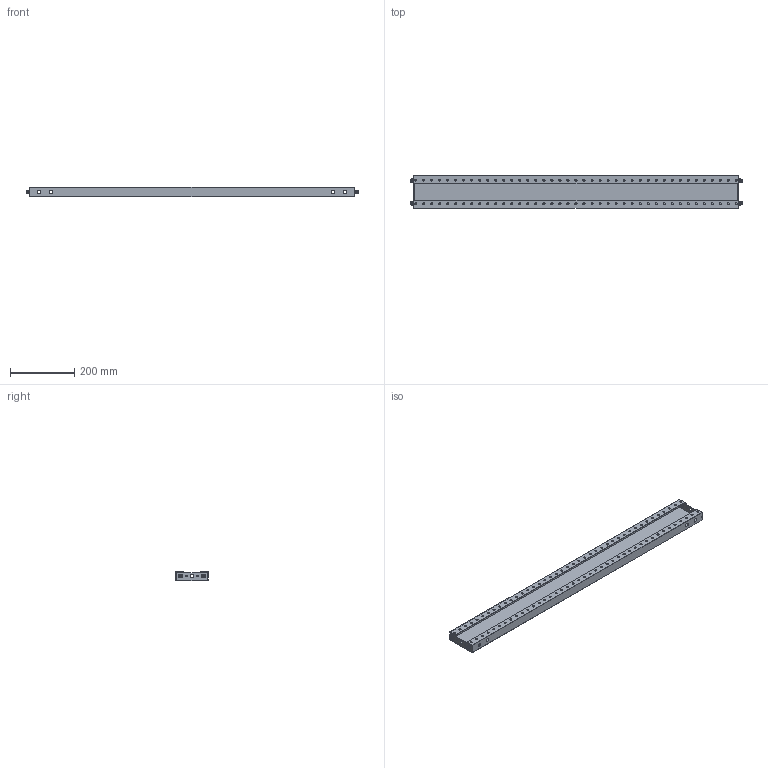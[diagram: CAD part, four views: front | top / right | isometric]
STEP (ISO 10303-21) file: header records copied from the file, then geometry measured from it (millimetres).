
FILE_DESCRIPTION(('Open CASCADE Model'),'2;1');
FILE_NAME('Open CASCADE Shape Model','2025-02-07T17:53:37',('Author'),( 'Open CASCADE'),'Open CASCADE STEP processor 7.8','Open CASCADE 7.8' ,'Unknown');
FILE_SCHEMA(('AUTOMOTIVE_DESIGN { 1 0 10303 214 1 1 1 1 }'));
Length unit declared in the file: millimetre
Products named in the file (5): Compound1; Solid1; Solid2; Solid3; Solid4
Assembly tree (13 placements, depth 2):
  Compound1
    Solid1
    Solid2  x4
    Solid3  x4
    Solid4  x4
Bounding box: 1036.2 x 100 x 30 mm (x, y, z)
Volume: 310829.9 mm3; surface area: 421234.3 mm2
Topology: 13 solids, 13 shells, 768 faces, 2154 edges, 1400 vertices
Faces by surface type: plane 378, cylinder 326, cone 32, bspline 16, torus 16
Full cylindrical faces by diameter (mm): 5.5 x4, 6.5 x82
Entity records: 25193 total; most frequent: CARTESIAN_POINT 15963, ORIENTED_EDGE 1908, DIRECTION 1788, EDGE_CURVE 954, VERTEX_POINT 629, AXIS2_PLACEMENT_3D 623, LINE 542, VECTOR 542
